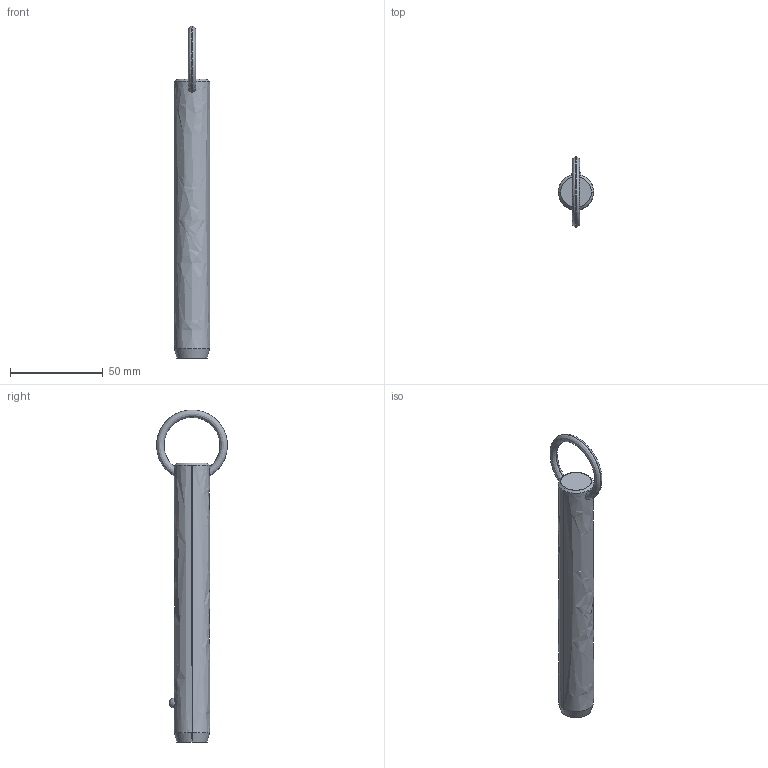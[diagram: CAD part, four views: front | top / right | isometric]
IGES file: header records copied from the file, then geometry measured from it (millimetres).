
Start section: SolidWorks IGES file using analytic representation for surfaces
Global section: file name: C:\Users\liam_\OneDrive\Documents\WORK\Work for WixRoyd\Job Files\J-00019 - Matt Davis CAD Checking\04. CAD Drawings\automotion20190605\P1250.2_v2\P1250.2_v2_20190729_IGES\P1250.075-460.igs; native system: SolidWorks 2017; preprocessor: SolidWorks 2017; author: liam_; date: 190729.235525; units: millimetre
Bounding box: 19 x 38.1 x 178.6 mm (x, y, z)
Surface area: 10486.3 mm2 (no closed solid volume)
Topology: 0 solids, 0 shells, 12 faces, 294 edges, 292 vertices
Faces by surface type: revolution 8, bspline 4
